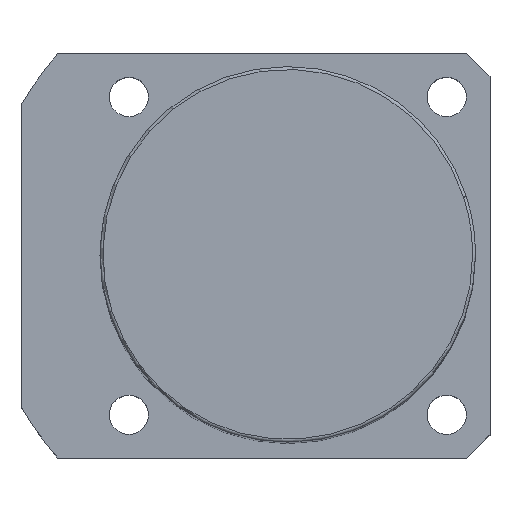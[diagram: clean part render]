
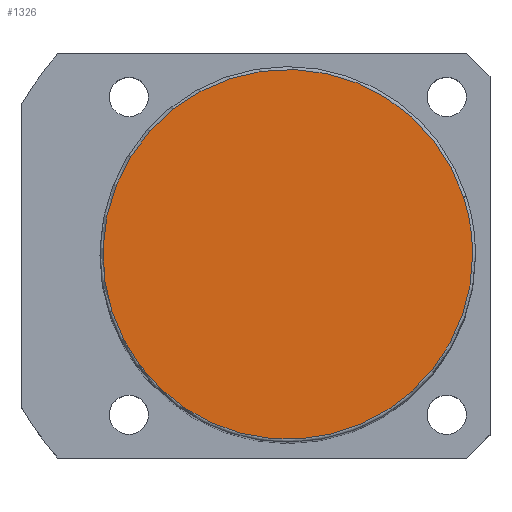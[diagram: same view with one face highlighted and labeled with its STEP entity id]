
A CAD part, top view. The second image highlights one B-rep face of the part: STEP entity #1326.
In plain terms, the highlighted planar face has unit normal (0, 0, 1).
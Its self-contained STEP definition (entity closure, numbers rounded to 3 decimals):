
#1292=CARTESIAN_POINT('',(32.0,0.0,161.0));
#1293=VERTEX_POINT('',#1292);
#1294=CARTESIAN_POINT('',(30.434,9.889,161.0));
#1295=VERTEX_POINT('',#1294);
#1296=CARTESIAN_POINT('',(0.0,0.0,161.0));
#1297=DIRECTION('',(0.0,0.0,1.0));
#1298=DIRECTION('',(1.0,0.0,0.0));
#1299=AXIS2_PLACEMENT_3D('',#1296,#1297,#1298);
#1300=CIRCLE('',#1299,32.0);
#1301=EDGE_CURVE('no 1856',#1293,#1295,#1300,.T.);
#1302=ORIENTED_EDGE('',*,*,#1301,.T.);
#1303=CARTESIAN_POINT('',(-30.434,-9.889,161.0));
#1304=VERTEX_POINT('',#1303);
#1305=CARTESIAN_POINT('',(0.0,0.0,161.0));
#1306=DIRECTION('',(0.0,0.0,1.0));
#1307=DIRECTION('',(1.0,0.0,0.0));
#1308=AXIS2_PLACEMENT_3D('',#1305,#1306,#1307);
#1309=CIRCLE('',#1308,32.0);
#1310=EDGE_CURVE('no 1862',#1295,#1304,#1309,.T.);
#1311=ORIENTED_EDGE('',*,*,#1310,.T.);
#1312=CARTESIAN_POINT('',(0.0,0.0,161.0));
#1313=DIRECTION('',(0.0,0.0,1.0));
#1314=DIRECTION('',(1.0,0.0,0.0));
#1315=AXIS2_PLACEMENT_3D('',#1312,#1313,#1314);
#1316=CIRCLE('',#1315,32.0);
#1317=EDGE_CURVE('no 1866',#1304,#1293,#1316,.T.);
#1318=ORIENTED_EDGE('',*,*,#1317,.T.);
#1319=EDGE_LOOP('',(#1302,#1311,#1318));
#1320=FACE_OUTER_BOUND('',#1319,.T.);
#1321=CARTESIAN_POINT('',(0.0,0.0,161.0));
#1322=DIRECTION('',(0.0,0.0,1.0));
#1323=DIRECTION('',(1.0,0.0,0.0));
#1324=AXIS2_PLACEMENT_3D('',#1321,#1322,#1323);
#1325=PLANE('',#1324);
#1326=ADVANCED_FACE('no 1847',(#1320),#1325,.T.);
